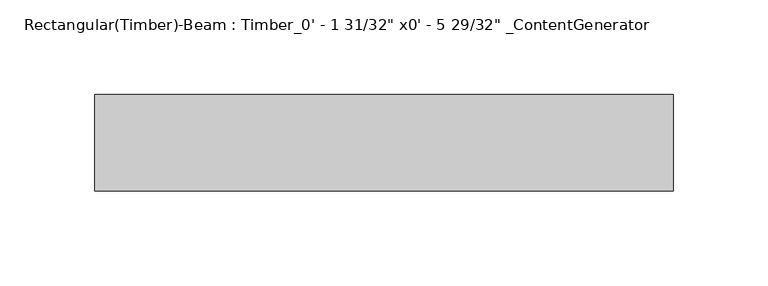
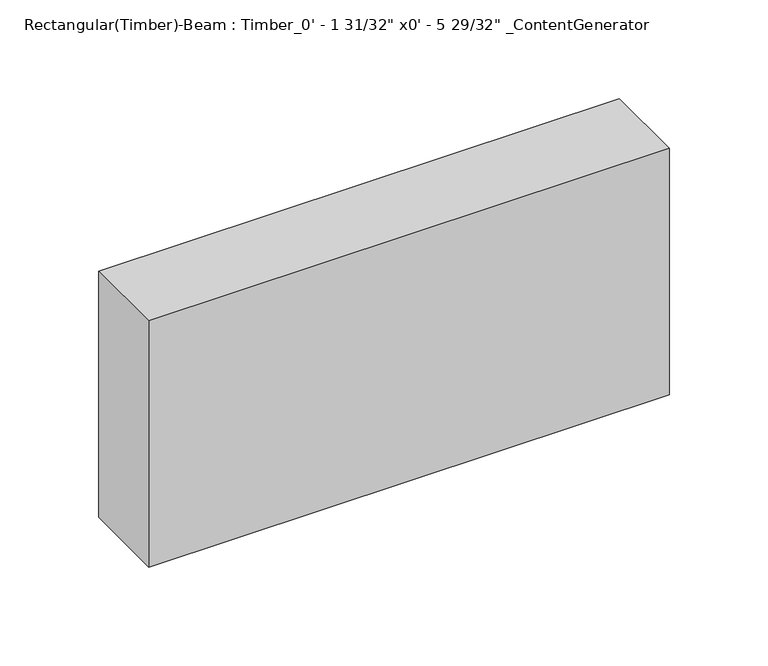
"""IFC4 building model written with IfcOpenShell, lengths in millimetres: beam geometry."""

import ifcopenshell
import ifcopenshell.guid

model = None  # the IFC model being written
_history = None  # IfcOwnerHistory: only IFC2X3 demands one
_inside = {}  # id of a spatial element -> (the spatial element, [elements in it])
_under = {}  # id of a project, library or spatial element -> (it, [spatial elements below it])
_declared = {}  # id of a project -> (the project, [libraries it declares])
_typed = {}  # id of a type object -> (the type object, [elements of that type])
_made_of = {}  # id of a material, layer set ... -> (it, [elements and type objects made of it])


def new_model(schema):
    """Start an empty IFC model of exactly this schema.

    Asked for "IFC4X3", IfcOpenShell would pick the latest addendum, in which some entities
    have other attributes; the version numbers below select the first issue.
    IFC2X3 requires an IfcOwnerHistory on every rooted entity: one is made here for all.
    """
    global model, _history
    if schema == "IFC4X3":
        model = ifcopenshell.file(schema_version=(4, 3, 0, 0))
    else:
        model = ifcopenshell.file(schema=schema)
    _inside.clear()
    _under.clear()
    _declared.clear()
    _typed.clear()
    _made_of.clear()
    _history = None
    if model.schema == "IFC2X3":
        org = make("IfcOrganization", Name="unknown")
        user = make(
            "IfcPersonAndOrganization",
            ThePerson=make("IfcPerson", FamilyName="unknown"),
            TheOrganization=org,
        )
        app = make(
            "IfcApplication",
            ApplicationDeveloper=org,
            Version="unknown",
            ApplicationFullName="unknown",
            ApplicationIdentifier="unknown",
        )
        _history = make(
            "IfcOwnerHistory",
            OwningUser=user,
            OwningApplication=app,
            ChangeAction="ADDED",
            CreationDate=0,
        )
    return model


def make(cls, **values):
    """One entity of the class cls with the attributes given. An attribute that is None is left unset."""
    return model.create_entity(
        cls, **{name: value for name, value in values.items() if value is not None}
    )


def rooted(cls, **values):
    """An entity with a GlobalId (a new one), such as an element, a storey or a relation."""
    return make(cls, GlobalId=ifcopenshell.guid.new(), OwnerHistory=_history, **values)


def si_unit(unit_type, name, prefix=None):
    """IfcSIUnit, for example si_unit("LENGTHUNIT", "METRE", prefix="MILLI")."""
    return make("IfcSIUnit", UnitType=unit_type, Prefix=prefix, Name=name)


def assignment(units):
    """IfcUnitAssignment: the units of a project."""
    return None if units is None else make("IfcUnitAssignment", Units=units)


def point(xyz):
    """IfcCartesianPoint."""
    return None if xyz is None else make("IfcCartesianPoint", Coordinates=xyz)


def direction(xyz):
    """IfcDirection."""
    return None if xyz is None else make("IfcDirection", DirectionRatios=xyz)


def frame(location, z_axis=None, x_axis=None):
    """IfcAxis2Placement3D, a coordinate frame: its origin and axes. An axis left out is left unset."""
    return make(
        "IfcAxis2Placement3D",
        Location=point(location),
        Axis=direction(z_axis),
        RefDirection=direction(x_axis),
    )


def origin():
    """The frame at (0, 0, 0) with its axes left unset."""
    return frame((0.0, 0.0, 0.0))


def place(relative_to, where):
    """IfcLocalPlacement: puts the frame where relative to a parent placement (None: the world)."""
    return make(
        "IfcLocalPlacement", PlacementRelTo=relative_to, RelativePlacement=where
    )


def context(
    kind, dimensions, precision=None, world=None, true_north=None, identifier=None
):
    """IfcGeometricRepresentationContext, for example the 3D "Model" context."""
    return make(
        "IfcGeometricRepresentationContext",
        ContextIdentifier=identifier,
        ContextType=kind,
        CoordinateSpaceDimension=dimensions,
        Precision=precision,
        WorldCoordinateSystem=world,
        TrueNorth=true_north,
    )


def project(units=None, contexts=None):
    """IfcProject with its units and contexts."""
    return rooted(
        "IfcProject",
        Name="project",
        RepresentationContexts=contexts,
        UnitsInContext=assignment(units),
    )


def spatial(cls, under=None, at=None, **own):
    """A site, building, storey or space (cls), placed at a placement, below another one or the project."""
    s = rooted(cls, ObjectPlacement=at, **own)
    if under is not None:
        _under.setdefault(under.id(), (under, []))[1].append(s)
    return s


def polyline(points):
    """IfcPolyline through the points."""
    return make("IfcPolyline", Points=[point(p) for p in points])


def outline(outer, holes=None, kind="AREA"):
    """IfcArbitraryClosedProfileDef: a profile drawn as a closed curve; with holes, ...WithVoids."""
    if holes is None:
        return make("IfcArbitraryClosedProfileDef", ProfileType=kind, OuterCurve=outer)
    return make(
        "IfcArbitraryProfileDefWithVoids",
        ProfileType=kind,
        OuterCurve=outer,
        InnerCurves=holes,
    )


def extrude(swept, where, along, depth):
    """IfcExtrudedAreaSolid: the profile swept, set in the frame where, extruded along a direction by depth."""
    return make(
        "IfcExtrudedAreaSolid",
        SweptArea=swept,
        Position=where,
        ExtrudedDirection=direction(along),
        Depth=depth,
    )


def shape(context_of_items, identifier, shape_type, items):
    """IfcShapeRepresentation: the items that make up one representation, for example the "Body"."""
    return make(
        "IfcShapeRepresentation",
        ContextOfItems=context_of_items,
        RepresentationIdentifier=identifier,
        RepresentationType=shape_type,
        Items=items,
    )


def source(mapping_origin, context_of_items, identifier, shape_type, items):
    """IfcRepresentationMap: a shape defined once, which mapped items show again and again."""
    return make(
        "IfcRepresentationMap",
        MappingOrigin=mapping_origin,
        MappedRepresentation=shape(context_of_items, identifier, shape_type, items),
    )


def transform(
    local_origin,
    x_axis=None,
    y_axis=None,
    z_axis=None,
    scale=None,
    scale2=None,
    scale3=None,
    uniform=True,
):
    """IfcCartesianTransformationOperator3D, or its non-uniform kind. x_axis, y_axis, z_axis: its Axis1, 2, 3."""
    if uniform:
        return make(
            "IfcCartesianTransformationOperator3D",
            Axis1=direction(x_axis),
            Axis2=direction(y_axis),
            LocalOrigin=point(local_origin),
            Scale=scale,
            Axis3=direction(z_axis),
        )
    return make(
        "IfcCartesianTransformationOperator3DnonUniform",
        Axis1=direction(x_axis),
        Axis2=direction(y_axis),
        LocalOrigin=point(local_origin),
        Scale=scale,
        Axis3=direction(z_axis),
        Scale2=scale2,
        Scale3=scale3,
    )


def mapped(mapping_source, mapping_target):
    """IfcMappedItem: shows the shape of a source again, moved by a transform."""
    return make(
        "IfcMappedItem", MappingSource=mapping_source, MappingTarget=mapping_target
    )


def made_of(thing, what):
    """Note that an element or type object is made of a material, layer set ...; save() writes the relation."""
    if what is not None:
        _made_of.setdefault(what.id(), (what, []))[1].append(thing)
    return thing


def element(
    cls,
    number,
    at=None,
    inside=None,
    cuts=None,
    type_object=None,
    material=None,
    context=None,
    identifier="Body",
    shape_type=None,
    held_by="IfcProductDefinitionShape",
    body=None,
    shapes=None,
    **own,
):
    """One element of the class cls, such as IfcWall. Its Tag is "e" and its number.

    at: its placement. inside: the storey or other place that contains it. cuts: it is an
    opening in that element (IfcRelVoidsElement). A single representation is given by context,
    identifier, shape_type and body (its items); several are given by shapes. held_by: the class
    of the entity that holds the representations. save() writes the other relations.
    """
    e = rooted(cls, Tag="e%d" % number, ObjectPlacement=at, **own)
    if body is not None:
        shapes = [shape(context, identifier, shape_type, body)]
    if shapes is not None:
        e.Representation = make(held_by, Representations=shapes)
    if inside is not None:
        _inside.setdefault(inside.id(), (inside, []))[1].append(e)
    if cuts is not None:
        rooted(
            "IfcRelVoidsElement", RelatingBuildingElement=cuts, RelatedOpeningElement=e
        )
    if type_object is not None:
        _typed.setdefault(type_object.id(), (type_object, []))[1].append(e)
    return made_of(e, material)


def aggregate(whole, parts):
    """IfcRelAggregates: a whole, such as a stair, and the parts it consists of."""
    return rooted("IfcRelAggregates", RelatingObject=whole, RelatedObjects=parts)


def save(model, path):
    """Write the relations noted so far, then the file.

    IfcRelAggregates (storeys below a building ...), IfcRelContainedInSpatialStructure (elements
    in a storey), IfcRelDefinesByType, IfcRelAssociatesMaterial and IfcRelDeclares: one each for
    every whole, place, type object, material and project.
    """
    for whole, parts in _under.values():
        aggregate(whole, parts)
    for where, things in _inside.values():
        rooted(
            "IfcRelContainedInSpatialStructure",
            RelatedElements=things,
            RelatingStructure=where,
        )
    for kind, things in _typed.values():
        rooted("IfcRelDefinesByType", RelatedObjects=things, RelatingType=kind)
    for what, things in _made_of.values():
        rooted("IfcRelAssociatesMaterial", RelatedObjects=things, RelatingMaterial=what)
    for by, libraries in _declared.values():
        rooted("IfcRelDeclares", RelatingContext=by, RelatedDefinitions=libraries)
    model.write(path)


def beam_34a553ad(model_context):
    return source(origin(), model_context, "Body", "SweptSolid", [
        extrude(outline(polyline([(165.1049994, 25.4), (165.1049994, -25.4), (-139.705, -25.4), (-139.705, 25.4), (165.1049994, 25.4)])), frame((0.0, 0.0, -76.2), z_axis=(0.0, 0.0, 1.0), x_axis=(1.0, 0.0, 0.0)), (0.0, 0.0, 1.0), 152.4),
    ])


if __name__ == "__main__":
    model = new_model("IFC4")
    model_context = context("Model", 3, world=origin())
    ifc_project = project(units=[si_unit("LENGTHUNIT", "METRE", prefix="MILLI")], contexts=[model_context])
    site = spatial("IfcSite", under=ifc_project)
    building = spatial("IfcBuilding", under=site)
    placement = place(None, origin())
    beam_shape = beam_34a553ad(model_context)
    element("IfcBeam", 1, ObjectType="Rectangular(Timber)-Beam : Timber_0' - 1 31/32\" x0' - 5 29/32\" _ContentGenerator", at=placement, inside=building, context=model_context, shape_type="MappedRepresentation", body=[
        mapped(beam_shape, transform((0.0, 0.0, 0.0), x_axis=(1.0, 0.0, 0.0), y_axis=(0.0, 1.0, 0.0), z_axis=(0.0, 0.0, 1.0))),
    ])
    save(model, "model.ifc")
